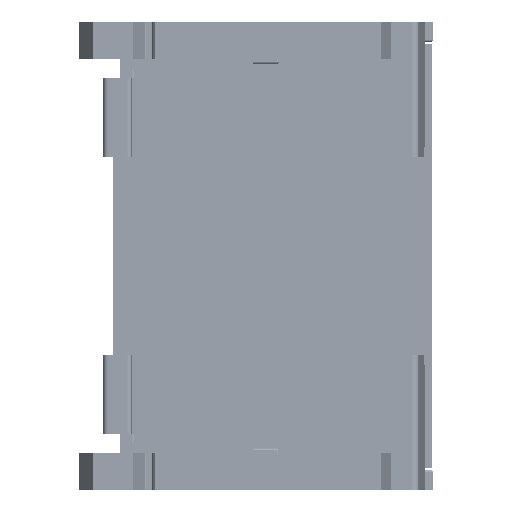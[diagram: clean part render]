
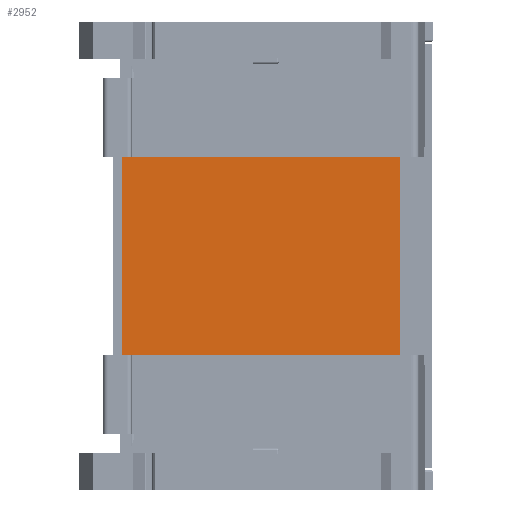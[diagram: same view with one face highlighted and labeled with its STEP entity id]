
A CAD part, front view. The second image highlights one B-rep face of the part: STEP entity #2952.
In plain terms, the highlighted planar face has unit normal (0, -1, 0).
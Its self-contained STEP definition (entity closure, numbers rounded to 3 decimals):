
#1946=PLANE('',#24790);
#2952=ADVANCED_FACE('',(#4296),#1946,.T.);
#4296=FACE_OUTER_BOUND('',#5525,.T.);
#5525=EDGE_LOOP('',(#13815,#13816,#13817,#13818));
#7602=LINE('',#36307,#9971);
#7603=LINE('',#36310,#9972);
#7604=LINE('',#36312,#9973);
#7605=LINE('',#36314,#9974);
#9971=VECTOR('',#28341,1.);
#9972=VECTOR('',#28342,1.);
#9973=VECTOR('',#28343,1.);
#9974=VECTOR('',#28344,1.);
#13815=ORIENTED_EDGE('',*,*,#21541,.T.);
#13816=ORIENTED_EDGE('',*,*,#21542,.F.);
#13817=ORIENTED_EDGE('',*,*,#21543,.F.);
#13818=ORIENTED_EDGE('',*,*,#21544,.F.);
#18849=VERTEX_POINT('',#36308);
#18850=VERTEX_POINT('',#36309);
#18851=VERTEX_POINT('',#36311);
#18852=VERTEX_POINT('',#36313);
#21541=EDGE_CURVE('',#18849,#18850,#7602,.T.);
#21542=EDGE_CURVE('',#18851,#18850,#7603,.T.);
#21543=EDGE_CURVE('',#18852,#18851,#7604,.T.);
#21544=EDGE_CURVE('',#18849,#18852,#7605,.T.);
#24790=AXIS2_PLACEMENT_3D('',#36315,#28345,#28346);
#28341=DIRECTION('',(-1.,0.,0.));
#28342=DIRECTION('',(0.,0.,1.));
#28343=DIRECTION('',(-1.,0.,0.));
#28344=DIRECTION('',(0.,0.,-1.));
#28345=DIRECTION('',(0.,-1.,0.));
#28346=DIRECTION('',(-1.,0.,0.));
#36307=CARTESIAN_POINT('',(47.132,-11.661,15.5));
#36308=CARTESIAN_POINT('',(56.982,-11.661,15.5));
#36309=CARTESIAN_POINT('',(18.582,-11.661,15.5));
#36310=CARTESIAN_POINT('',(18.582,-11.661,-27.6));
#36311=CARTESIAN_POINT('',(18.582,-11.661,-11.7));
#36312=CARTESIAN_POINT('',(47.132,-11.661,-11.7));
#36313=CARTESIAN_POINT('',(56.982,-11.661,-11.7));
#36314=CARTESIAN_POINT('',(56.982,-11.661,-27.6));
#36315=CARTESIAN_POINT('',(28.632,-11.661,-27.6));
